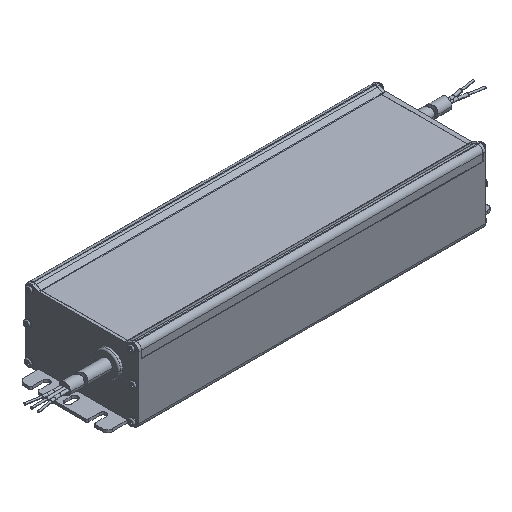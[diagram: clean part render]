
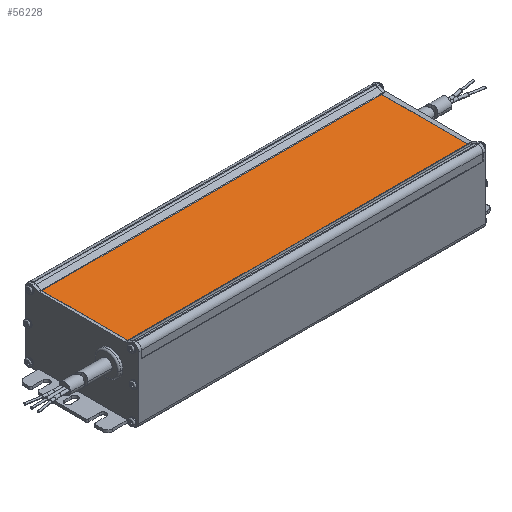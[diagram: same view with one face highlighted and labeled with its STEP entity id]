
A CAD part, isometric view. The second image highlights one B-rep face of the part: STEP entity #56228.
In plain terms, the highlighted planar face has unit normal (0, 0, 1).
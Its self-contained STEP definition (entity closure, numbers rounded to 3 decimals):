
#7286=DIRECTION('',(0.,-1.,0.));
#7287=VECTOR('',#7286,51.504);
#7288=CARTESIAN_POINT('',(8.,25.702,41.55));
#7289=LINE('',#7288,#7287);
#7295=CARTESIAN_POINT('',(8.,-25.801,41.55));
#12047=DIRECTION('',(-1.,0.,0.));
#12048=VECTOR('',#12047,204.);
#12049=CARTESIAN_POINT('',(212.,25.701,41.55));
#12050=LINE('',#12049,#12048);
#12055=DIRECTION('',(0.,-1.,0.));
#12056=VECTOR('',#12055,51.502);
#12057=CARTESIAN_POINT('',(212.,25.701,41.55));
#12058=LINE('',#12057,#12056);
#12068=DIRECTION('',(1.,0.,0.));
#12069=VECTOR('',#12068,204.);
#12070=CARTESIAN_POINT('',(8.,-25.801,41.55));
#12071=LINE('',#12070,#12069);
#24110=VERTEX_POINT('',#7295);
#24111=CARTESIAN_POINT('',(8.,25.702,41.55));
#24112=VERTEX_POINT('',#24111);
#24415=CARTESIAN_POINT('',(212.,-25.801,41.55));
#24416=VERTEX_POINT('',#24415);
#24417=CARTESIAN_POINT('',(212.,25.701,41.55));
#24418=VERTEX_POINT('',#24417);
#56216=CARTESIAN_POINT('',(8.,25.701,41.55));
#56217=DIRECTION('',(0.,0.,1.));
#56218=DIRECTION('',(0.,-1.,0.));
#56219=AXIS2_PLACEMENT_3D('',#56216,#56217,#56218);
#56220=PLANE('',#56219);
#56221=ORIENTED_EDGE('',*,*,#26952,.T.);
#56223=ORIENTED_EDGE('',*,*,#56222,.F.);
#56224=ORIENTED_EDGE('',*,*,#38675,.F.);
#56225=ORIENTED_EDGE('',*,*,#56209,.F.);
#56226=EDGE_LOOP('',(#56221,#56223,#56224,#56225));
#56227=FACE_OUTER_BOUND('',#56226,.F.);
#56228=ADVANCED_FACE('',(#56227),#56220,.T.);
#26952=EDGE_CURVE('',#24418,#24416,#12058,.T.);
#38675=EDGE_CURVE('',#24112,#24110,#7289,.T.);
#56209=EDGE_CURVE('',#24418,#24112,#12050,.T.);
#56222=EDGE_CURVE('',#24110,#24416,#12071,.T.);
